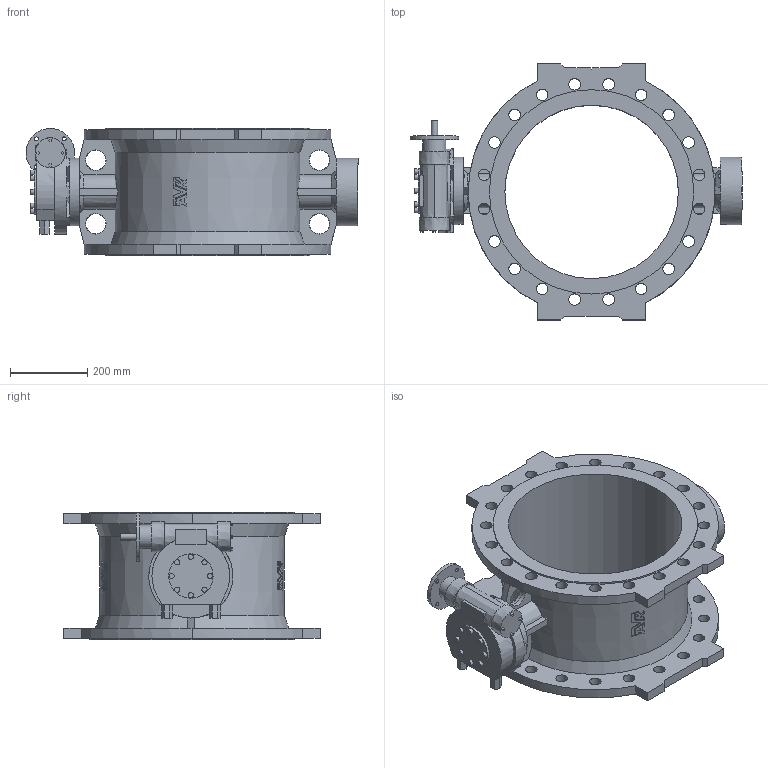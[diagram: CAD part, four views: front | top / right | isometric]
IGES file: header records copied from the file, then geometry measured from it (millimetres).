
Start section: SolidWorks IGES file using analytic representation for surfaces
Global section: file name: \\avksan2\techshare\PBM outline export from Enovia\O_756_102_DN450_0XX_AA0_igs.igs; native system: SolidWorks 2012; preprocessor: SolidWorks 2012; author: pbm; date: 160309.120004; units: millimetre
Bounding box: 861 x 664 x 330 mm (x, y, z)
Surface area: 2055774.8 mm2 (no closed solid volume)
Topology: 0 solids, 0 shells, 446 faces, 3376 edges, 3247 vertices
Faces by surface type: bspline 319, revolution 127
